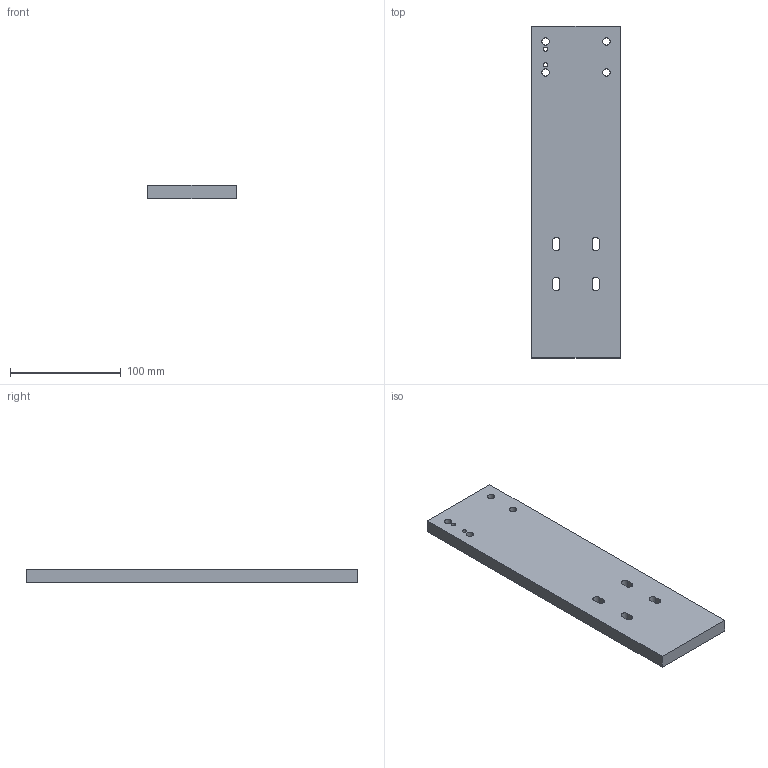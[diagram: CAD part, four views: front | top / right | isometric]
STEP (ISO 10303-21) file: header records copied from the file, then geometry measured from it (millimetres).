
FILE_DESCRIPTION (( 'STEP AP214' ), '1' );
FILE_NAME ('②_ﾍﾞｰｽﾌﾟﾚｰﾄ.STEP', '2024-05-07T00:12:10', ( '' ), ( '' ), 'SwSTEP 2.0', 'SolidWorks 2023', '' );
FILE_SCHEMA (( 'AUTOMOTIVE_DESIGN' ));
Length unit declared in the file: millimetre
Products named in the file (1): ②_ﾍﾞｰｽﾌﾟﾚｰﾄ
Bounding box: 80 x 300 x 12 mm (x, y, z)
Volume: 282529 mm3; surface area: 59040.6 mm2
Topology: 1 solids, 1 shells, 34 faces, 96 edges, 64 vertices
Faces by surface type: cylinder 20, plane 14
Entity records: 1183 total; most frequent: DIRECTION 206, CARTESIAN_POINT 195, ORIENTED_EDGE 192, EDGE_CURVE 96, AXIS2_PLACEMENT_3D 75, VERTEX_POINT 64, LINE 56, VECTOR 56
